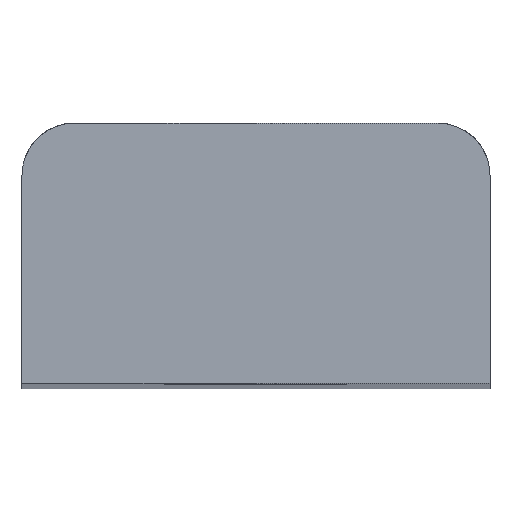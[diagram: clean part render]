
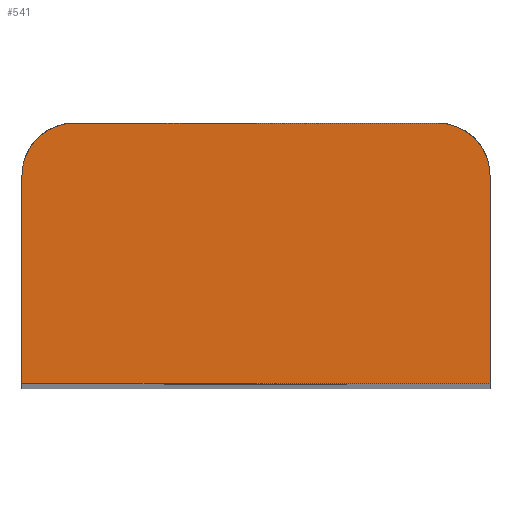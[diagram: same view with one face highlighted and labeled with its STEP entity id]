
A CAD part, top view. The second image highlights one B-rep face of the part: STEP entity #541.
In plain terms, the highlighted face is a extrusion surface.
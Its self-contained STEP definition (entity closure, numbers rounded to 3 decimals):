
#480=CARTESIAN_POINT('Control Point',(-9.,-5.,62.5)) ;
#481=CARTESIAN_POINT('Control Point',(9.066,-5.,62.5)) ;
#486=CARTESIAN_POINT('Control Point',(-7.,5.,62.5)) ;
#487=CARTESIAN_POINT('Control Point',(-7.628,5.,62.5)) ;
#488=CARTESIAN_POINT('Control Point',(-8.257,4.754,62.5)) ;
#489=CARTESIAN_POINT('Control Point',(-8.754,4.257,62.5)) ;
#490=CARTESIAN_POINT('Control Point',(-9.,3.628,62.5)) ;
#491=CARTESIAN_POINT('Control Point',(-9.,3.,62.5)) ;
#492=CARTESIAN_POINT('Vertex',(-7.,5.,62.5)) ;
#494=CARTESIAN_POINT('Vertex',(-9.,3.,62.5)) ;
#497=CARTESIAN_POINT('Line Origine',(-9.,0.,62.5)) ;
#501=CARTESIAN_POINT('Vertex',(-9.,-5.,62.5)) ;
#504=CARTESIAN_POINT('Line Origine',(0.,-5.,62.5)) ;
#508=CARTESIAN_POINT('Vertex',(9.,-5.,62.5)) ;
#511=CARTESIAN_POINT('Line Origine',(9.,0.,62.5)) ;
#515=CARTESIAN_POINT('Vertex',(9.,3.,62.5)) ;
#519=CARTESIAN_POINT('Control Point',(9.,3.,62.5)) ;
#520=CARTESIAN_POINT('Control Point',(9.,3.628,62.5)) ;
#521=CARTESIAN_POINT('Control Point',(8.754,4.257,62.5)) ;
#522=CARTESIAN_POINT('Control Point',(8.257,4.754,62.5)) ;
#523=CARTESIAN_POINT('Control Point',(7.628,5.,62.5)) ;
#524=CARTESIAN_POINT('Control Point',(7.,5.,62.5)) ;
#525=CARTESIAN_POINT('Vertex',(7.,5.,62.5)) ;
#528=CARTESIAN_POINT('Line Origine',(0.,5.,62.5)) ;
#482=DIRECTION('Vector Direction',(0.,1.,0.)) ;
#498=DIRECTION('Vector Direction',(0.,1.,0.)) ;
#505=DIRECTION('Vector Direction',(1.,0.,0.)) ;
#512=DIRECTION('Vector Direction',(0.,1.,0.)) ;
#529=DIRECTION('Vector Direction',(1.,0.,0.)) ;
#534=ORIENTED_EDGE('',*,*,#496,.T.) ;
#535=ORIENTED_EDGE('',*,*,#503,.T.) ;
#536=ORIENTED_EDGE('',*,*,#510,.T.) ;
#537=ORIENTED_EDGE('',*,*,#517,.T.) ;
#538=ORIENTED_EDGE('',*,*,#527,.T.) ;
#539=ORIENTED_EDGE('',*,*,#532,.T.) ;
#483=VECTOR('Extrusion Surface Vector',#482,1.) ;
#499=VECTOR('Line Direction',#498,1.) ;
#506=VECTOR('Line Direction',#505,1.) ;
#513=VECTOR('Line Direction',#512,1.) ;
#530=VECTOR('Line Direction',#529,1.) ;
#541=ADVANCED_FACE('Superficie.7',(#540),#484,.T.) ;
#479=B_SPLINE_CURVE_WITH_KNOTS('',1,(#480,#481),.UNSPECIFIED.,.F.,.U.,(2,2),(-9.,9.066),.UNSPECIFIED.) ;
#485=B_SPLINE_CURVE_WITH_KNOTS('',5,(#486,#487,#488,#489,#490,#491),.UNSPECIFIED.,.F.,.U.,(6,6),(0.,4.443),.UNSPECIFIED.) ;
#518=B_SPLINE_CURVE_WITH_KNOTS('',5,(#519,#520,#521,#522,#523,#524),.UNSPECIFIED.,.F.,.U.,(6,6),(0.,4.443),.UNSPECIFIED.) ;
#496=EDGE_CURVE('',#493,#495,#485,.T.) ;
#503=EDGE_CURVE('',#495,#502,#500,.F.) ;
#510=EDGE_CURVE('',#502,#509,#507,.T.) ;
#517=EDGE_CURVE('',#509,#516,#514,.T.) ;
#527=EDGE_CURVE('',#516,#526,#518,.T.) ;
#532=EDGE_CURVE('',#526,#493,#531,.F.) ;
#533=EDGE_LOOP('',(#534,#535,#536,#537,#538,#539)) ;
#540=FACE_OUTER_BOUND('',#533,.T.) ;
#500=LINE('Line',#497,#499) ;
#507=LINE('Line',#504,#506) ;
#514=LINE('Line',#511,#513) ;
#531=LINE('Line',#528,#530) ;
#484=SURFACE_OF_LINEAR_EXTRUSION('generated tabulated cylinder',#479,#483) ;
#493=VERTEX_POINT('',#492) ;
#495=VERTEX_POINT('',#494) ;
#502=VERTEX_POINT('',#501) ;
#509=VERTEX_POINT('',#508) ;
#516=VERTEX_POINT('',#515) ;
#526=VERTEX_POINT('',#525) ;
